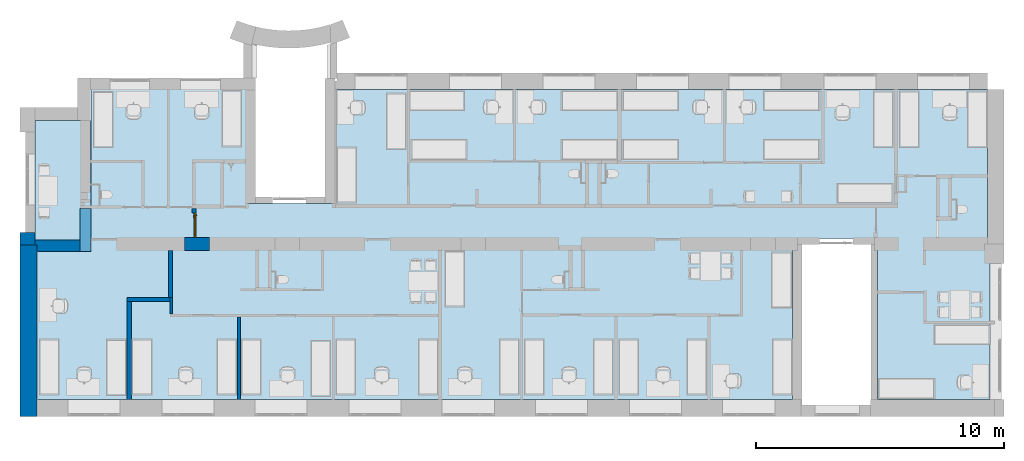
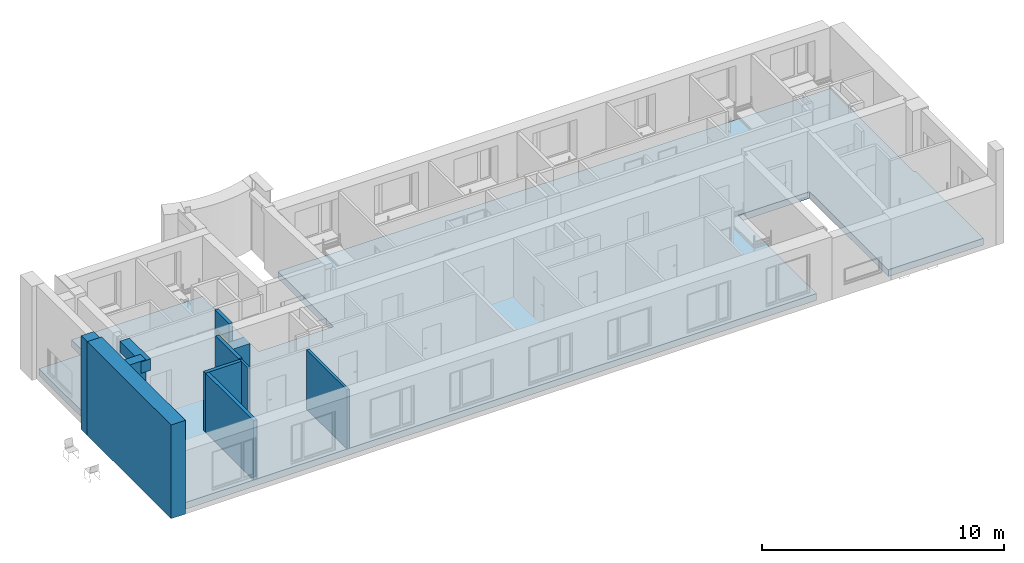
# One storey, part 1 of 46: 11 walls, 2 slabs, 1 door, 4 openings.
"""IFC2X3 building model written with IfcOpenShell, lengths in millimetres."""

from ifc_helpers import new_model, entity, si_unit, converted_unit, derived_unit, direction, frame, frame_2d, origin, place, context, subcontext, project, spatial, polyline, rectangle, outline, extrude, clip, bounded_halfspace, faceted_brep, source, transform, mapped, material, material_list, layer, layer_set, layer_usage, type_object, type_shapes, element, fill, save


model = new_model("IFC2X3")

# Units and contexts
model_context = context("Model", 3, precision=0.01, world=origin(), true_north=direction((6.12303176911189e-17, 1.0)))
body_context = subcontext(model_context, "Body", "Model", "MODEL_VIEW")
ifc_project = project(units=[si_unit("LENGTHUNIT", "METRE", prefix="MILLI"), si_unit("AREAUNIT", "SQUARE_METRE"), si_unit("VOLUMEUNIT", "CUBIC_METRE"), converted_unit("PLANEANGLEUNIT", "DEGREE", entity("IfcRatioMeasure", 0.0174532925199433), si_unit("PLANEANGLEUNIT", "RADIAN"), dimensions=[0, 0, 0, 0, 0, 0, 0]), si_unit("MASSUNIT", "GRAM", prefix="KILO"), derived_unit("MASSDENSITYUNIT", [(si_unit("MASSUNIT", "GRAM", prefix="KILO"), 1), (si_unit("LENGTHUNIT", "METRE"), -3)]), si_unit("TIMEUNIT", "SECOND"), si_unit("FREQUENCYUNIT", "HERTZ"), si_unit("THERMODYNAMICTEMPERATUREUNIT", "DEGREE_CELSIUS"), derived_unit("THERMALTRANSMITTANCEUNIT", [(si_unit("MASSUNIT", "GRAM", prefix="KILO"), 1), (si_unit("THERMODYNAMICTEMPERATUREUNIT", "KELVIN"), -1), (si_unit("TIMEUNIT", "SECOND"), -3)]), derived_unit("VOLUMETRICFLOWRATEUNIT", [(si_unit("LENGTHUNIT", "METRE"), 3), (si_unit("TIMEUNIT", "SECOND"), -1)]), si_unit("ELECTRICCURRENTUNIT", "AMPERE"), si_unit("ELECTRICVOLTAGEUNIT", "VOLT"), si_unit("POWERUNIT", "WATT"), si_unit("FORCEUNIT", "NEWTON", prefix="KILO"), si_unit("ILLUMINANCEUNIT", "LUX"), si_unit("LUMINOUSFLUXUNIT", "LUMEN"), si_unit("LUMINOUSINTENSITYUNIT", "CANDELA"), derived_unit("USERDEFINED", [(si_unit("MASSUNIT", "GRAM", prefix="KILO"), -1), (si_unit("LENGTHUNIT", "METRE"), -2), (si_unit("TIMEUNIT", "SECOND"), 3), (si_unit("LUMINOUSFLUXUNIT", "LUMEN"), 1)]), derived_unit("LINEARVELOCITYUNIT", [(si_unit("LENGTHUNIT", "METRE"), 1), (si_unit("TIMEUNIT", "SECOND"), -1)]), si_unit("PRESSUREUNIT", "PASCAL"), derived_unit("USERDEFINED", [(si_unit("LENGTHUNIT", "METRE"), -2), (si_unit("MASSUNIT", "GRAM", prefix="KILO"), 1), (si_unit("TIMEUNIT", "SECOND"), -2)]), derived_unit("LINEARFORCEUNIT", [(si_unit("MASSUNIT", "GRAM", prefix="KILO"), 1), (si_unit("LENGTHUNIT", "METRE"), 1), (si_unit("TIMEUNIT", "SECOND"), -2), (si_unit("LENGTHUNIT", "METRE"), -1)]), derived_unit("PLANARFORCEUNIT", [(si_unit("MASSUNIT", "GRAM", prefix="KILO"), 1), (si_unit("LENGTHUNIT", "METRE"), 1), (si_unit("TIMEUNIT", "SECOND"), -2), (si_unit("LENGTHUNIT", "METRE"), -2)])], contexts=[model_context])

# Site, building, storey
site_placement = place(None, origin())
site = spatial("IfcSite", under=ifc_project, at=site_placement, Name="Default", CompositionType="ELEMENT")
building_placement = place(site_placement, origin())
building = spatial("IfcBuilding", under=site, at=building_placement, Name="SMA ARH", CompositionType="ELEMENT")
storey_placement = place(building_placement, frame((0.0, 0.0, 9910.0)))
storey = spatial("IfcBuildingStorey", under=building, at=storey_placement, Name="4 Korrus", CompositionType="ELEMENT", Elevation=9909.9999999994)

# Slabs
ifc_material_1 = material(Name="EST. Betoon. Armeeritud. Kohtvalu")
ifc_layer_1 = layer(ifc_material_1, 60.0)
ifc_material_2 = material(Name="EST. Soojustus. Mineraalvill. Default")
ifc_layer_2 = layer(ifc_material_2, 30.0)
ifc_material_3 = material(Name="EST. Puistematerjal. Kergkruus")
ifc_layer_3 = layer(ifc_material_3, 30.0)
ifc_material_4 = material(Name="EST. Betoon. Armeeritud. Monteeritav(1)")
ifc_layer_4 = layer(ifc_material_4, 220.0)
ifc_layer_set_1 = layer_set([ifc_layer_1, ifc_layer_2, ifc_layer_3, ifc_layer_4], Name="Floor:VL-00_R/B 370mm 4 k")
ifc_layer_usage_1 = layer_usage(ifc_layer_set_1, "AXIS3", "POSITIVE", 0.0)
slab_type_1 = type_object("IfcSlabType", Name="Floor:VL-00_R/B 370mm 4 k", PredefinedType="FLOOR", material=ifc_layer_set_1)
slab_1_placement = place(storey_placement, origin())
element("IfcSlab", 1, at=slab_1_placement, inside=storey, type_object=slab_type_1, material=ifc_layer_usage_1, Name="Floor:VL-00_R/B 370mm 4 k", ObjectType="Floor:VL-00_R/B 370mm 4 k", PredefinedType="FLOOR", context=body_context, shape_type="SweptSolid", body=[
    extrude(outline(polyline([(-6408.90038036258, -20453.1126248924), (-143.900380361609, -20453.1126248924), (-143.900380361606, -18288.1126248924), (6087.30266253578, -18288.1126248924), (6087.30266253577, -12023.1126248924), (1496.09961963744, -12023.1126248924), (1496.09961963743, -8453.11262489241), (6091.09961963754, -8453.11262489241), (6091.09961963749, 17861.8873751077), (-793.900380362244, 17861.8873751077), (-793.900380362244, 17946.7883742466), (-6408.90038036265, 17946.7883742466), (-6408.90038036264, 13411.8873751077), (81.0996196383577, 13411.8873751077), (81.0996196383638, 9996.88737510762), (-6408.90038036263, 9996.88737510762), (-6408.90038036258, -20453.1126248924)])), frame((20453.1126248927, 6408.90038036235, 10.0), z_axis=(0.0, 0.0, -1.0), x_axis=(0.0, 1.0, 0.0)), (0.0, 0.0, 1.0), 340.0),
])
ifc_layer_5 = layer(ifc_material_1, 60.0)
ifc_layer_6 = layer(ifc_material_2, 30.0)
ifc_layer_7 = layer(ifc_material_3, 20.0)
ifc_layer_8 = layer(ifc_material_4, 220.0)
ifc_layer_set_2 = layer_set([ifc_layer_5, ifc_layer_6, ifc_layer_7, ifc_layer_8], Name="Floor:VL-00_R/B 370mm 2 k 2")
ifc_layer_usage_2 = layer_usage(ifc_layer_set_2, "AXIS3", "POSITIVE", 0.0)
slab_type_2 = type_object("IfcSlabType", Name="Floor:VL-00_R/B 370mm 2 k 2", PredefinedType="FLOOR", material=ifc_layer_set_2)
slab_2_placement = place(storey_placement, origin())
element("IfcSlab", 2, at=slab_2_placement, inside=storey, type_object=slab_type_2, material=ifc_layer_usage_2, Name="Floor:VL-00_R/B 370mm 2 k 2", ObjectType="Floor:VL-00_R/B 370mm 2 k 2", PredefinedType="FLOOR", context=body_context, shape_type="SweptSolid", body=[
    extrude(rectangle(XDim=5069.99999999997, YDim=2265.0, at=frame_2d((-2.04636307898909e-12, 2.04636307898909e-12), x_axis=(1.0, 0.0))), frame((1032.50000000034, 8715.0, 106.495984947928), z_axis=(0.0, 0.0, -1.0), x_axis=(0.0, 1.0, 0.0)), (0.0, 0.0, 1.0), 330.0),
])

# Wall
ifc_material_5 = material(Name="_ol.olev sein")
ifc_layer_9 = layer(ifc_material_5, 600.0)
ifc_layer_set_3 = layer_set([ifc_layer_9], Name="Basic Wall:Generic - 600mm")
ifc_layer_usage_3 = layer_usage(ifc_layer_set_3, "AXIS2", "NEGATIVE", 300.0)
wall_type_1 = type_object("IfcWallType", Name="Basic Wall:Generic - 600mm", PredefinedType="STANDARD", material=ifc_layer_set_3)
wall_1_placement = place(storey_placement, frame((-400.0, 6225.0, 0.0), z_axis=(0.0, 0.0, 1.0), x_axis=(0.0, 1.0, 0.0)))
element("IfcWallStandardCase", 3, at=wall_1_placement, inside=storey, type_object=wall_type_1, material=ifc_layer_usage_3, Name="Basic Wall:Generic - 600mm", ObjectType="Basic Wall:Generic - 600mm", context=body_context, shape_type="SweptSolid", body=[
    extrude(rectangle(XDim=495.000000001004, YDim=600.0, at=frame_2d((247.500000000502, 5.6843418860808e-14), x_axis=(-1.0, 0.0))), origin(), (0.0, 0.0, 1.0), 4720.00000000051),
])

# Wall, opening
ifc_layer_10 = layer(ifc_material_5, 450.0)
ifc_layer_set_4 = layer_set([ifc_layer_10], Name="Basic Wall:Generic - 450mm")
ifc_layer_usage_4 = layer_usage(ifc_layer_set_4, "AXIS2", "POSITIVE", -225.0)
wall_type_2 = type_object("IfcWallType", Name="Basic Wall:Generic - 450mm", PredefinedType="STANDARD", material=ifc_layer_set_4)
wall_2_placement = place(storey_placement, frame((-100.0, 6195.0, 0.0)))
wall_2 = element("IfcWallStandardCase", 4, at=wall_2_placement, inside=storey, type_object=wall_type_2, material=ifc_layer_usage_4, Name="Basic Wall:Generic - 450mm", ObjectType="Basic Wall:Generic - 450mm", context=body_context, shape_type="SweptSolid", body=[
    extrude(outline(polyline([(2041.80783715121, -225.0), (2041.80783715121, -185.0), (2041.80783715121, 225.0), (0.0, 225.0), (0.0, 30.0), (80.0, 30.0), (80.0, -225.0), (2041.80783715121, -225.0)])), origin(), (0.0, 0.0, 1.0), 3041.0500000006),
])
opening_1_placement = place(wall_2_placement, origin())
element("IfcOpeningElement", 5, at=opening_1_placement, cuts=wall_2, Name="Basic Wall:Generic - 450mm", ObjectType="Opening", context=body_context, shape_type="SweptSolid", body=[
    extrude(rectangle(XDim=2089.99999999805, YDim=1000.0, at=frame_2d((-1.4210854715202e-13, -1.02318153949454e-12), x_axis=(0.0, 1.0))), frame((2795.0, -1199.0, 1045.0), z_axis=(0.0, 1.0, 0.0), x_axis=(-1.0, 0.0, 0.0)), (0.0, 0.0, 1.0), 3048.0),
])

# Wall
ifc_layer_usage_5 = layer_usage(ifc_layer_set_4, "AXIS2", "NEGATIVE", 225.0)
wall_3_placement = place(storey_placement, frame((1941.80783715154, 5970.0, 2431.98697047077), z_axis=(0.0, 0.0, 1.0), x_axis=(0.0, 1.0, 0.0)))
element("IfcWallStandardCase", 6, at=wall_3_placement, inside=storey, type_object=wall_type_2, material=ifc_layer_usage_5, Name="Basic Wall:Generic - 450mm", ObjectType="Basic Wall:Generic - 450mm", context=body_context, shape_type="SweptSolid", body=[
    extrude(rectangle(XDim=1730.00000000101, YDim=450.0, at=frame_2d((865.000000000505, 4.2632564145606e-14), x_axis=(-1.0, 0.0))), origin(), (0.0, 0.0, 1.0), 569.063029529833),
])

# Wall, opening
ifc_layer_11 = layer(ifc_material_5, 680.0)
ifc_layer_set_5 = layer_set([ifc_layer_11], Name="Basic Wall:Generic - 680mm")
ifc_layer_usage_6 = layer_usage(ifc_layer_set_5, "AXIS2", "POSITIVE", -340.0)
wall_type_3 = type_object("IfcWallType", Name="Basic Wall:Generic - 680mm", PredefinedType="STANDARD", material=ifc_layer_set_5)
wall_4_placement = place(storey_placement, frame((-360.0, 6225.0, 0.0), z_axis=(0.0, 0.0, 1.0), x_axis=(0.0, -1.0, 0.0)))
wall_4 = element("IfcWallStandardCase", 7, at=wall_4_placement, inside=storey, type_object=wall_type_3, material=ifc_layer_usage_6, Name="Basic Wall:Generic - 680mm", ObjectType="Basic Wall:Generic - 680mm", context=body_context, shape_type="SweptSolid", body=[
    extrude(rectangle(XDim=6925.0, YDim=680.0, at=frame_2d((3462.5, 0.0), x_axis=(-1.0, 0.0))), origin(), (0.0, 0.0, 1.0), 4720.00000000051),
])
opening_2_placement = place(storey_placement, frame((-360.0, 6225.0, 0.0), z_axis=(0.0, 0.0, 1.0), x_axis=(0.0, -1.0, 0.0)))
element("IfcOpeningElement", 8, at=opening_2_placement, cuts=wall_4, Name="Basic Wall:Generic - 680mm:1", ObjectType="Opening", context=body_context, shape_type="SweptSolid", body=[
    extrude(rectangle(XDim=6225.0, YDim=35.2228964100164, at=frame_2d((1.59161572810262e-12, -3.15303338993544e-12), x_axis=(1.0, 0.0))), frame((3112.50000000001, 322.388551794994, 3001.05000000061)), (0.0, 0.0, 1.0), 300.000000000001),
])

# Walls
ifc_material_6 = material(Name="EST. Ehitusplaat. Kipsplaat")
ifc_layer_12 = layer(ifc_material_6, 12.5)
ifc_layer_13 = layer(ifc_material_6, 12.5)
ifc_layer_14 = layer(ifc_material_2, 50.0)
ifc_layer_15 = layer(ifc_material_6, 12.5)
ifc_layer_16 = layer(ifc_material_2, 50.0)
ifc_layer_17 = layer(ifc_material_6, 12.5)
ifc_layer_18 = layer(ifc_material_6, 12.5)
ifc_layer_set_6 = layer_set([ifc_layer_12, ifc_layer_13, ifc_layer_14, ifc_layer_15, ifc_layer_16, ifc_layer_17, ifc_layer_18], Name="Basic Wall:SS-04_Kips, 50+50 mm metallkarkass 2")
ifc_layer_usage_7 = layer_usage(ifc_layer_set_6, "AXIS2", "NEGATIVE", 81.25)
wall_type_4 = type_object("IfcWallType", Name="Basic Wall:SS-04_Kips, 50+50 mm metallkarkass 2", PredefinedType="STANDARD", material=ifc_layer_set_6)
wall_5_placement = place(storey_placement, frame((3704.50000000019, 0.0, 0.0), z_axis=(0.0, 0.0, 1.0), x_axis=(0.0, 1.0, 0.0)))
element("IfcWallStandardCase", 9, at=wall_5_placement, inside=storey, type_object=wall_type_4, material=ifc_layer_usage_7, Name="Basic Wall:SS-04_Kips, 50+50 mm metallkarkass 2", ObjectType="Basic Wall:SS-04_Kips, 50+50 mm metallkarkass 2", context=body_context, shape_type="Clipping", body=[
    clip(extrude(rectangle(XDim=3944.25000000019, YDim=162.5, at=frame_2d((1972.1250000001, 1.49213974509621e-13), x_axis=(-1.0, 0.0))), origin(), (0.0, 0.0, 1.0), 3001.0500000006), bounded_halfspace(frame((0.0, -81.2499999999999, 3001.0500000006), z_axis=(0.0, 0.0, -1.0), x_axis=(1.0, 0.0, 0.0)), True, frame((0.0, -81.2499999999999, 3001.0500000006)), polyline([(0.0, 0.0), (3944.25000000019, 0.0), (3944.25000000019, 162.5), (0.0, 162.5), (0.0, 0.0)]))),
])
ifc_layer_usage_8 = layer_usage(ifc_layer_set_6, "AXIS2", "NEGATIVE", 81.25)
wall_6_placement = place(storey_placement, frame((5372.50000000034, 6010.0, 0.0), z_axis=(0.0, 0.0, 1.0), x_axis=(0.0, -1.0, 0.0)))
element("IfcWallStandardCase", 10, at=wall_6_placement, inside=storey, type_object=wall_type_4, material=ifc_layer_usage_8, Name="Basic Wall:SS-04_Kips, 50+50 mm metallkarkass 2", ObjectType="Basic Wall:SS-04_Kips, 50+50 mm metallkarkass 2", context=body_context, shape_type="SweptSolid", body=[
    extrude(rectangle(XDim=1903.25000000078, YDim=162.5, at=frame_2d((951.625000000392, 0.0), x_axis=(-1.0, 0.0))), origin(), (0.0, 0.0, 1.0), 3041.0500000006),
])

# Wall, opening, door
ifc_layer_usage_9 = layer_usage(ifc_layer_set_6, "AXIS2", "NEGATIVE", 81.25)
wall_7_placement = place(storey_placement, frame((6316.57130046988, 6520.0, 0.0), z_axis=(0.0, 0.0, 1.0), x_axis=(0.0, 1.0, 0.0)))
wall_7 = element("IfcWallStandardCase", 11, at=wall_7_placement, inside=storey, type_object=wall_type_4, material=ifc_layer_usage_9, Name="Basic Wall:SS-04_Kips, 50+50 mm metallkarkass 2", ObjectType="Basic Wall:SS-04_Kips, 50+50 mm metallkarkass 2", context=body_context, shape_type="SweptSolid", body=[
    extrude(rectangle(XDim=1180.00000000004, YDim=162.5, at=frame_2d((590.000000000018, -8.5265128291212e-14), x_axis=(-1.0, 0.0))), origin(), (0.0, 0.0, 1.0), 3001.0500000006),
])
opening_3_placement = place(wall_7_placement, frame((1000.0, 81.2499999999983, 0.0)))
opening_3 = element("IfcOpeningElement", 12, at=opening_3_placement, cuts=wall_7, Name="SMA_D01, 1-poolne:SU-P-04 - 1000x2100 EI-30:1", ObjectType="Opening", context=body_context, shape_type="SweptSolid", body=[
    extrude(rectangle(XDim=2099.99999999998, YDim=1000.0, at=frame_2d((1049.99999999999, 500.0), x_axis=(1.0, 0.0))), frame((0.0, 0.0, 0.0), z_axis=(0.0, -1.0, 0.0), x_axis=(0.0, 0.0, 1.0)), (0.0, 0.0, 1.0), 162.5),
])
ifc_material_7 = material(Name="EST. Metall. Alumiinium. Värvitud. RAL7023 (Concrete grey)")
ifc_material_8 = material(Name="<Unnamed>")
ifc_material_9 = material(Name="EST. Klaas. 3x. Default")
ifc_material_list = material_list([ifc_material_7, ifc_material_8, ifc_material_7, ifc_material_8, ifc_material_9, ifc_material_8, ifc_material_7])
door_style = type_object("IfcDoorStyle", Name="SMA_D01, 1-poolne:SU-P-04 - 1000x2100 EI-30", ConstructionType="NOTDEFINED", OperationType="SINGLE_SWING_RIGHT", ParameterTakesPrecedence=False, Sizeable=False, material=ifc_material_list)
shared_shape = source(origin(), body_context, "Body", "Brep", [
    faceted_brep([(110.0, 72.5000000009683, 1112.5), (110.0, 110.500000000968, 1112.5), (85.0, 110.500000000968, 1112.5), (85.0, 67.5000000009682, 1112.5), (205.0, 67.5000000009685, 1112.5), (205.0, 72.5000000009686, 1112.5), (110.0, 72.5000000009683, 1087.5), (205.0, 72.5000000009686, 1087.5), (205.0, 67.5000000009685, 1087.5), (85.0, 67.5000000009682, 1087.5), (85.0, 110.500000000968, 1087.5), (110.0, 110.500000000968, 1087.5)], [[[0, 1, 2, 3, 4, 5]], [[6, 7, 8, 9, 10, 11]], [[1, 0, 6, 11]], [[2, 1, 11, 10]], [[3, 2, 10, 9]], [[4, 3, 9, 8]], [[5, 4, 8, 7]], [[0, 5, 7, 6]]]),
    faceted_brep([(122.499999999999, 110.500000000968, 1137.5), (122.499999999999, 112.500000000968, 1137.5), (72.4999999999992, 112.500000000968, 1137.5), (72.4999999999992, 110.500000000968, 1137.5), (122.499999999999, 110.500000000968, 1017.5), (72.4999999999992, 110.500000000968, 1017.5), (72.4999999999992, 112.500000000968, 1017.5), (122.499999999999, 112.500000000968, 1017.5)], [[[0, 1, 2, 3]], [[4, 5, 6, 7]], [[1, 0, 4, 7]], [[2, 1, 7, 6]], [[3, 2, 6, 5]], [[0, 3, 5, 4]]]),
    faceted_brep([(110.0, 202.500000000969, 1112.5), (205.0, 202.500000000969, 1112.5), (205.0, 207.500000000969, 1112.5), (85.0, 207.500000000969, 1112.5), (85.0, 164.500000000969, 1112.5), (110.0, 164.500000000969, 1112.5), (110.0, 202.500000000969, 1087.5), (110.0, 164.500000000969, 1087.5), (85.0, 164.500000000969, 1087.5), (85.0, 207.500000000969, 1087.5), (205.0, 207.500000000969, 1087.5), (205.0, 202.500000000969, 1087.5)], [[[0, 1, 2, 3, 4, 5]], [[6, 7, 8, 9, 10, 11]], [[5, 7, 6, 0]], [[4, 8, 7, 5]], [[3, 9, 8, 4]], [[2, 10, 9, 3]], [[1, 11, 10, 2]], [[0, 6, 11, 1]]]),
    faceted_brep([(122.499999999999, 164.500000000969, 1137.5), (72.4999999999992, 164.500000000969, 1137.5), (72.4999999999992, 162.500000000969, 1137.5), (122.499999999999, 162.500000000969, 1137.5), (122.499999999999, 164.500000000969, 1017.5), (122.499999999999, 162.500000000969, 1017.5), (72.4999999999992, 162.500000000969, 1017.5), (72.4999999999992, 164.500000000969, 1017.5)], [[[0, 1, 2, 3]], [[4, 5, 6, 7]], [[3, 5, 4, 0]], [[2, 6, 5, 3]], [[1, 7, 6, 2]], [[0, 4, 7, 1]]]),
    faceted_brep([(950.0, 72.5000000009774, 30.0), (950.0, 72.5000000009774, 0.0), (950.0, 112.500000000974, 0.0), (950.0, 112.500000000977, 20.0), (950.0, 112.500000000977, 30.0), (50.0, 72.5000000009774, 30.0), (50.0, 112.500000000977, 30.0), (50.0, 112.500000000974, 20.0), (50.0, 112.500000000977, 0.0), (50.0, 72.5000000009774, 0.0), (35.0, 112.500000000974, 0.0), (35.0, 162.500000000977, 0.0), (965.0, 162.500000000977, 0.0), (965.0, 112.500000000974, 0.0), (965.0, 162.500000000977, 20.0), (965.0, 112.500000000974, 20.0), (35.0, 162.500000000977, 20.0), (35.0, 112.500000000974, 20.0)], [[[0, 1, 2, 3, 4]], [[5, 6, 7, 8, 9]], [[1, 0, 5, 9]], [[2, 1, 9, 8, 10, 11, 12, 13]], [[6, 4, 3, 7]], [[0, 4, 6, 5]], [[14, 15, 13, 12]], [[16, 11, 10, 17]], [[15, 14, 16, 17, 7, 3]], [[13, 15, 3, 2]], [[14, 12, 11, 16]], [[17, 10, 8, 7]]]),
    faceted_brep([(990.0, 72.500000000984, 0.0), (950.0, 72.5000000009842, 0.0), (950.0, 112.500000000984, 0.0), (965.0, 112.500000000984, 0.0), (965.0, 162.500000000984, 0.0), (990.0, 162.500000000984, 0.0), (990.0, 72.500000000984, 2090.0), (10.0, 72.5000000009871, 2090.0), (10.0, 72.5000000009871, 0.0), (50.0, 72.5000000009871, 0.0), (50.0, 72.5000000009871, 2050.0), (950.0, 72.5000000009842, 2050.0), (950.0, 112.500000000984, 2050.0), (50.0, 112.500000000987, 2050.0), (50.0, 112.500000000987, 0.0), (35.0, 112.500000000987, 0.0), (35.0, 112.500000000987, 2065.0), (965.0, 112.500000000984, 2065.0), (965.0, 162.500000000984, 2065.0), (35.0, 162.500000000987, 2065.0), (35.0, 162.500000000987, 0.0), (10.0, 162.500000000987, 0.0), (10.0, 162.500000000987, 2090.0), (990.0, 162.500000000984, 2090.0)], [[[0, 1, 2, 3, 4, 5]], [[1, 0, 6, 7, 8, 9, 10, 11]], [[2, 1, 11, 12]], [[3, 2, 12, 13, 14, 15, 16, 17]], [[4, 3, 17, 18]], [[5, 4, 18, 19, 20, 21, 22, 23]], [[0, 5, 23, 6]], [[8, 7, 22, 21]], [[9, 8, 21, 20, 15, 14]], [[10, 9, 14, 13]], [[16, 15, 20, 19]], [[11, 10, 13, 12]], [[17, 16, 19, 18]], [[7, 6, 23, 22]]]),
    faceted_brep([(35.0, 112.500000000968, 2065.0), (35.0, 112.500000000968, 20.0), (965.0, 112.500000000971, 20.0), (965.0, 112.500000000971, 2065.0), (35.0, 162.500000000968, 2065.0), (965.0, 162.500000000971, 2065.0), (965.0, 162.500000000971, 20.0), (35.0, 162.500000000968, 20.0)], [[[0, 1, 2, 3]], [[4, 5, 6, 7]], [[1, 0, 4, 7]], [[2, 1, 7, 6]], [[3, 2, 6, 5]], [[0, 3, 5, 4]]]),
])
type_shapes(door_style, [shared_shape])
door_placement = place(opening_3_placement, frame((0.0, 0.0, 0.0), z_axis=(0.0, 0.0, 1.0), x_axis=(-1.0, 0.0, 0.0)))
door = element("IfcDoor", 13, at=door_placement, inside=storey, type_object=door_style, material=ifc_material_7, Name="SMA_D01, 1-poolne:SU-P-04 - 1000x2100 EI-30", ObjectType="SMA_D01, 1-poolne:SU-P-04 - 1000x2100 EI-30", OverallHeight=2099.99999999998, OverallWidth=1000.0, context=body_context, shape_type="MappedRepresentation", body=[
    mapped(shared_shape, transform((0.0, 0.0, 0.0), scale=1.0)),
])
fill(opening_3, door)

# Walls
ifc_layer_usage_10 = layer_usage(ifc_layer_set_6, "AXIS2", "NEGATIVE", 81.25)
wall_8_placement = place(storey_placement, frame((5453.75000000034, 4025.49999999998, 0.0), z_axis=(0.0, 0.0, 1.0), x_axis=(-1.0, 0.0, 0.0)))
element("IfcWallStandardCase", 14, at=wall_8_placement, inside=storey, type_object=wall_type_4, material=ifc_layer_usage_10, Name="Basic Wall:SS-04_Kips, 50+50 mm metallkarkass 2", ObjectType="Basic Wall:SS-04_Kips, 50+50 mm metallkarkass 2", context=body_context, shape_type="SweptSolid", body=[
    extrude(rectangle(XDim=1714.50000000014, YDim=162.5, at=frame_2d((973.250000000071, 2.91322521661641e-13), x_axis=(-1.0, 0.0))), origin(), (0.0, 0.0, 1.0), 3001.0500000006),
])
ifc_layer_19 = layer(ifc_material_6, 12.5)
ifc_layer_20 = layer(ifc_material_6, 12.5)
ifc_layer_21 = layer(ifc_material_2, 66.0)
ifc_layer_22 = layer(ifc_material_6, 12.5)
ifc_layer_23 = layer(ifc_material_6, 12.5)
ifc_layer_set_7 = layer_set([ifc_layer_19, ifc_layer_20, ifc_layer_21, ifc_layer_22, ifc_layer_23], Name="Basic Wall:SS-05_Kips, 66mm metallkarkass")
ifc_layer_usage_11 = layer_usage(ifc_layer_set_7, "AXIS2", "NEGATIVE", 58.0)
wall_type_5 = type_object("IfcWallType", Name="Basic Wall:SS-05_Kips, 66mm metallkarkass", PredefinedType="STANDARD", material=ifc_layer_set_7)
wall_9_placement = place(storey_placement, frame((8130.0, 0.0, 0.0), z_axis=(0.0, 0.0, 1.0), x_axis=(0.0, 1.0, 0.0)))
element("IfcWallStandardCase", 15, at=wall_9_placement, inside=storey, type_object=wall_type_5, material=ifc_layer_usage_11, Name="Basic Wall:SS-05_Kips, 66mm metallkarkass", ObjectType="Basic Wall:SS-05_Kips, 66mm metallkarkass", context=body_context, shape_type="Clipping", body=[
    clip(extrude(rectangle(XDim=3329.50000000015, YDim=116.0, at=frame_2d((1664.75000000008, 3.5527136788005e-15), x_axis=(-1.0, 0.0))), origin(), (0.0, 0.0, 1.0), 3001.0500000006), bounded_halfspace(frame((0.0, -58.0, 3001.0500000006), z_axis=(0.0, 0.0, -1.0), x_axis=(1.0, 0.0, 0.0)), True, frame((0.0, -58.0, 3001.0500000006)), polyline([(0.0, 0.0), (3329.50000000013, 0.0), (3329.50000000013, 116.0), (0.0, 116.0), (0.0, 0.0)]))),
])
ifc_layer_usage_12 = layer_usage(ifc_layer_set_7, "AXIS2", "NEGATIVE", 58.0)
wall_10_placement = place(storey_placement, frame((5395.75000000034, 4106.74999999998, 0.0), z_axis=(0.0, 0.0, 1.0), x_axis=(0.0, -1.0, 0.0)))
element("IfcWallStandardCase", 16, at=wall_10_placement, inside=storey, type_object=wall_type_5, material=ifc_layer_usage_12, Name="Basic Wall:SS-05_Kips, 66mm metallkarkass", ObjectType="Basic Wall:SS-05_Kips, 66mm metallkarkass", context=body_context, shape_type="SweptSolid", body=[
    extrude(rectangle(XDim=661.250000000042, YDim=116.0, at=frame_2d((330.625000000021, 2.1316282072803e-14), x_axis=(-1.0, 0.0))), origin(), (0.0, 0.0, 1.0), 2970.0000000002),
])

# Wall, opening
ifc_material_10 = material(Name="EST. Müüritis. Väikeplokk. Kergkruusplokk")
ifc_layer_24 = layer(ifc_material_10, 510.0)
ifc_layer_set_8 = layer_set([ifc_layer_24], Name="Basic Wall:SS-03_Fibo 510mm kinnilaotav ava")
ifc_layer_usage_13 = layer_usage(ifc_layer_set_8, "AXIS2", "NEGATIVE", 255.0)
wall_type_6 = type_object("IfcWallType", Name="Basic Wall:SS-03_Fibo 510mm kinnilaotav ava", PredefinedType="STANDARD", material=ifc_layer_set_8)
wall_11_placement = place(storey_placement, frame((5930.0, 6265.0, 0.0)))
wall_11 = element("IfcWallStandardCase", 17, at=wall_11_placement, inside=storey, type_object=wall_type_6, material=ifc_layer_usage_13, Name="Basic Wall:SS-03_Fibo 510mm kinnilaotav ava", ObjectType="Basic Wall:SS-03_Fibo 510mm kinnilaotav ava", context=body_context, shape_type="SweptSolid", body=[
    extrude(rectangle(XDim=999.999999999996, YDim=510.000000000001, at=frame_2d((499.999999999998, 0.0), x_axis=(-1.0, 0.0))), origin(), (0.0, 0.0, 1.0), 2090.00000000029),
])
opening_4_placement = place(wall_11_placement, origin())
element("IfcOpeningElement", 18, at=opening_4_placement, cuts=wall_11, Name="Basic Wall:SS-03_Fibo 510mm kinnilaotav ava", ObjectType="Opening", context=body_context, shape_type="SweptSolid", body=[
    extrude(rectangle(XDim=2099.99999999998, YDim=162.5, at=frame_2d((0.0, 1.02318153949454e-12), x_axis=(0.0, 1.0))), frame((386.571300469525, 255.0, 1050.0), z_axis=(0.0, 1.0, 0.0), x_axis=(1.0, 0.0, 0.0)), (0.0, 0.0, 1.0), 1000.0),
])

save(model, "model.ifc")
